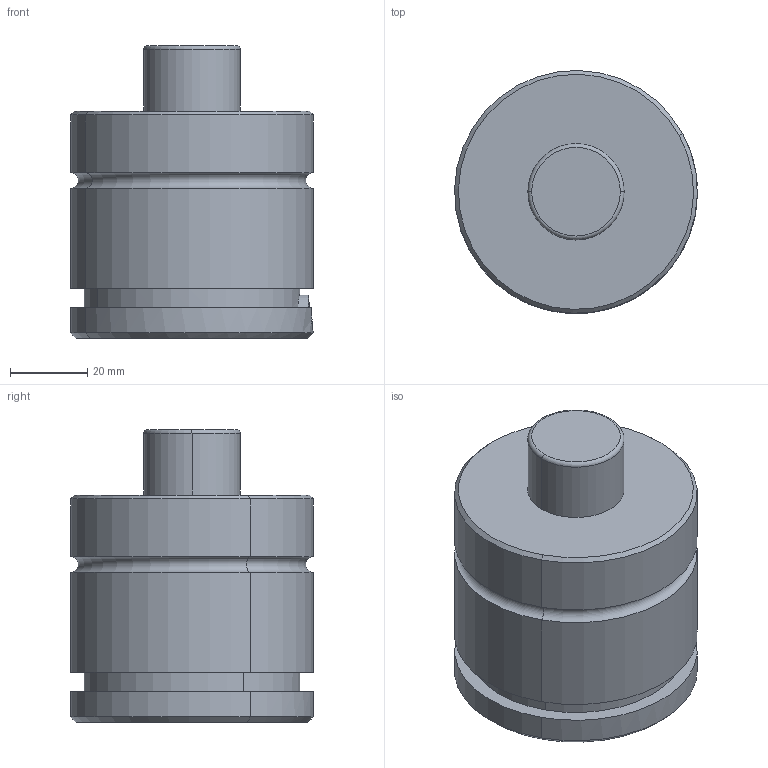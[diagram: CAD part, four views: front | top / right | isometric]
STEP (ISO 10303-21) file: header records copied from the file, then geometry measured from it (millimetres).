
FILE_DESCRIPTION(('FreeCAD Model'),'2;1');
FILE_NAME('Open CASCADE Shape Model','2024-11-12T16:08:26',('Author'),( ''),'Open CASCADE STEP processor 7.6','FreeCAD','Unknown');
FILE_SCHEMA(('AUTOMOTIVE_DESIGN { 1 0 10303 214 1 1 1 1 }'));
Length unit declared in the file: millimetre
Products named in the file (2): Part001; Cut
Assembly tree (1 placements, depth 2):
  Part001
    Cut
Bounding box: 62.98 x 62.98 x 76 mm (x, y, z)
Volume: 185144.5 mm3; surface area: 21853.8 mm2
Topology: 1 solids, 1 shells, 68 faces, 153 edges, 92 vertices
Faces by surface type: cylinder 27, plane 19, cone 16, torus 6
Full cylindrical faces by diameter (mm): 8 x4
Entity records: 2027 total; most frequent: CARTESIAN_POINT 466, DIRECTION 340, ORIENTED_EDGE 298, EDGE_CURVE 149, AXIS2_PLACEMENT_3D 141, VERTEX_POINT 92, FACE_BOUND 79, EDGE_LOOP 79
